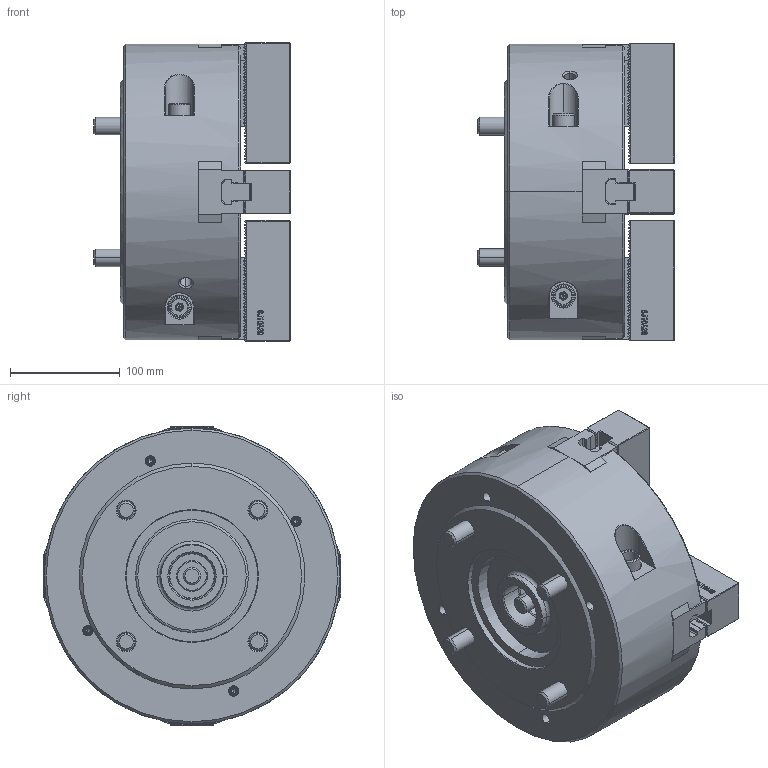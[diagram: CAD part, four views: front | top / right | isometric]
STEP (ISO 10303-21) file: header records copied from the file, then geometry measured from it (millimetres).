
FILE_DESCRIPTION (( 'STEP AP214' ), '1' );
FILE_NAME ('DT1_HW-10_OUTSIDE_VIEW_HCL.STEP', '2026-01-26T02:55:38', ( '' ), ( '' ), 'SwSTEP 2.0', 'SolidWorks 2022', '' );
FILE_SCHEMA (( 'AUTOMOTIVE_DESIGN' ));
Length unit declared in the file: millimetre
Products named in the file (10): DT1_HW10_BASE^DT1_HW-10; DT1_HW10_COVER^DT1_HW-10; DT1_HW-10_OUTSIDE_VIEW_HCL; DT1_HW10_M16x115^DT1_HW-10; DT1_HW10_SOFTJAW^DT1_HW-10; DT1_HW10_DN^DT1_HW-10; DT1_HW10_M12x35^DT1_HW-10; DT1_HW10_M5x10^DT1_HW-10; DT1_HW10_TNUT^DT1_HW-10; DT1_HW10_DRAWSCREW^DT1_HW-10
Assembly tree (28 placements, depth 2):
  DT1_HW-10_OUTSIDE_VIEW_HCL
    DT1_HW10_SOFTJAW^DT1_HW-10  x4
    DT1_HW10_TNUT^DT1_HW-10  x4
    DT1_HW10_COVER^DT1_HW-10
    DT1_HW10_DRAWSCREW^DT1_HW-10
    DT1_HW10_DN^DT1_HW-10
    DT1_HW10_BASE^DT1_HW-10
    DT1_HW10_M16x115^DT1_HW-10  x4
    DT1_HW10_M12x35^DT1_HW-10  x8
    DT1_HW10_M5x10^DT1_HW-10  x4
Bounding box: 179 x 271.64 x 272 mm (x, y, z)
Volume: 6620776.4 mm3; surface area: 532554.5 mm2
Topology: 28 solids, 30 shells, 5096 faces, 14271 edges, 9345 vertices
Faces by surface type: plane 3064, cylinder 1112, cone 451, bspline 403, torus 58, sphere 8
Entity records: 114648 total; most frequent: CARTESIAN_POINT 35738, ORIENTED_EDGE 17484, DIRECTION 14533, EDGE_CURVE 8742, VECTOR 6275, LINE 6275, VERTEX_POINT 5732, AXIS2_PLACEMENT_3D 4129
